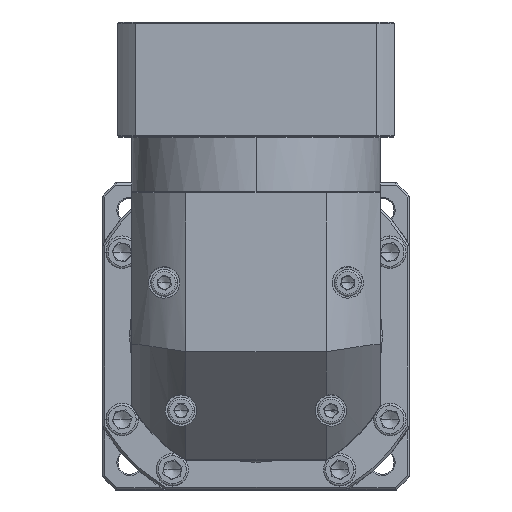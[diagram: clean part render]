
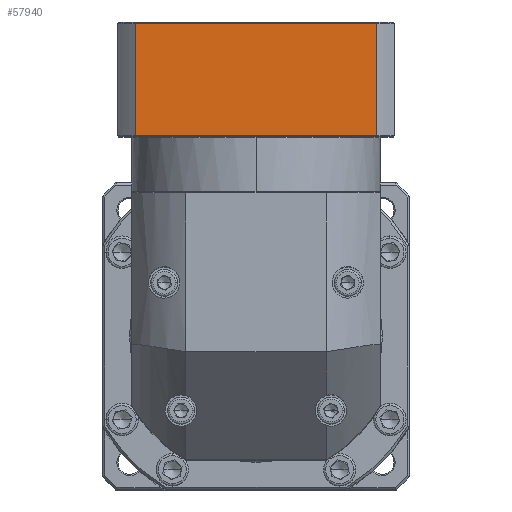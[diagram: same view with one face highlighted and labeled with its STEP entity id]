
A CAD part, top view. The second image highlights one B-rep face of the part: STEP entity #57940.
In plain terms, the highlighted planar face has unit normal (0, 0, 1).
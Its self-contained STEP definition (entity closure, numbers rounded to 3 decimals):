
#7416 = FACE_OUTER_BOUND ( 'NONE', #8239, .T. ) ;
#8239 = EDGE_LOOP ( 'NONE', ( #147104, #82893, #24710, #71742 ) ) ;
#10883 = DIRECTION ( 'NONE',  ( 1., 0., 0. ) ) ;
#14883 = CARTESIAN_POINT ( 'NONE',  ( -76.259, 236.154, 81.956 ) ) ;
#20695 = CARTESIAN_POINT ( 'NONE',  ( -188.134, 236.154, 81.956 ) ) ;
#24710 = ORIENTED_EDGE ( 'NONE', *, *, #77205, .F. ) ;
#26430 = LINE ( 'NONE', #61952, #74532 ) ;
#45229 = VERTEX_POINT ( 'NONE', #75917 ) ;
#45968 = CARTESIAN_POINT ( 'NONE',  ( -196.197, 184.154, 81.956 ) ) ;
#46343 = VECTOR ( 'NONE', #137001, 1000. ) ;
#54316 = CARTESIAN_POINT ( 'NONE',  ( -188.134, 184.154, 81.956 ) ) ;
#57940 = ADVANCED_FACE ( 'NONE', ( #7416 ), #78978, .F. ) ;
#58247 = AXIS2_PLACEMENT_3D ( 'NONE', #125893, #136282, #10883 ) ;
#61438 = DIRECTION ( 'NONE',  ( 0., -1., 0. ) ) ;
#61952 = CARTESIAN_POINT ( 'NONE',  ( -76.259, -59.167, 81.956 ) ) ;
#65538 = VECTOR ( 'NONE', #66722, 1000. ) ;
#66722 = DIRECTION ( 'NONE',  ( 0., 1., 0. ) ) ;
#67667 = EDGE_CURVE ( 'NONE', #108835, #113474, #97342, .T. ) ;
#71742 = ORIENTED_EDGE ( 'NONE', *, *, #67667, .F. ) ;
#74532 = VECTOR ( 'NONE', #61438, 1000. ) ;
#75917 = CARTESIAN_POINT ( 'NONE',  ( -76.259, 184.154, 81.956 ) ) ;
#77205 = EDGE_CURVE ( 'NONE', #113474, #45229, #26430, .T. ) ;
#77404 = CARTESIAN_POINT ( 'NONE',  ( -196.197, 236.154, 81.956 ) ) ;
#77886 = DIRECTION ( 'NONE',  ( 1., 0., 0. ) ) ;
#78978 = PLANE ( 'NONE',  #58247 ) ;
#81937 = LINE ( 'NONE', #45968, #46343 ) ;
#82617 = VERTEX_POINT ( 'NONE', #54316 ) ;
#82893 = ORIENTED_EDGE ( 'NONE', *, *, #133978, .F. ) ;
#97342 = LINE ( 'NONE', #77404, #136492 ) ;
#101546 = EDGE_CURVE ( 'NONE', #82617, #108835, #140349, .T. ) ;
#108835 = VERTEX_POINT ( 'NONE', #20695 ) ;
#113474 = VERTEX_POINT ( 'NONE', #14883 ) ;
#125893 = CARTESIAN_POINT ( 'NONE',  ( -196.197, 236.654, 81.956 ) ) ;
#133978 = EDGE_CURVE ( 'NONE', #45229, #82617, #81937, .T. ) ;
#135858 = CARTESIAN_POINT ( 'NONE',  ( -188.134, -59.167, 81.956 ) ) ;
#136282 = DIRECTION ( 'NONE',  ( 0., 0., -1. ) ) ;
#136492 = VECTOR ( 'NONE', #77886, 1000. ) ;
#137001 = DIRECTION ( 'NONE',  ( -1., 0., 0. ) ) ;
#140349 = LINE ( 'NONE', #135858, #65538 ) ;
#147104 = ORIENTED_EDGE ( 'NONE', *, *, #101546, .F. ) ;
